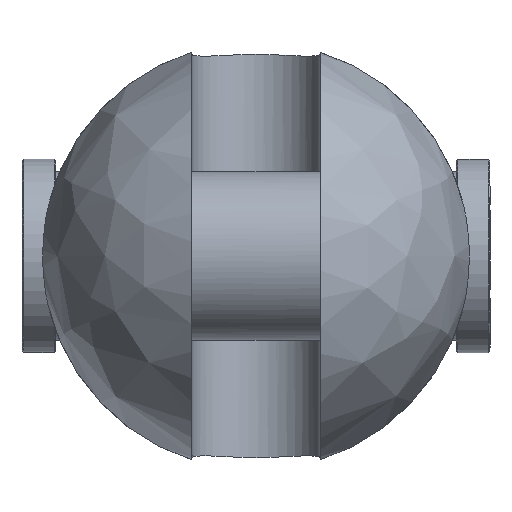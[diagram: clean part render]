
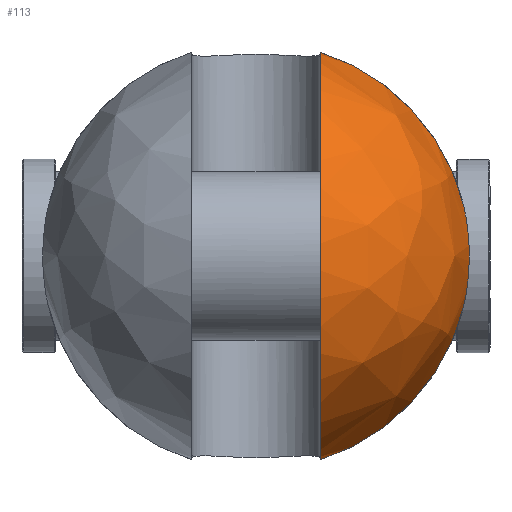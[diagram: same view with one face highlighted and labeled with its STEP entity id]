
A CAD part, left-side view. The second image highlights one B-rep face of the part: STEP entity #113.
In plain terms, the highlighted free-form (B-spline) face has degree [2, 2] with [9, 5] control points.
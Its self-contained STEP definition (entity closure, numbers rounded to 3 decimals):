
#113=ADVANCED_FACE('',(#200),#1522,.T.);
#200=FACE_OUTER_BOUND('',#299,.T.);
#299=EDGE_LOOP('',(#739,#740,#741,#742));
#739=ORIENTED_EDGE('',*,*,#995,.T.);
#740=ORIENTED_EDGE('',*,*,#992,.F.);
#741=ORIENTED_EDGE('',*,*,#1012,.T.);
#742=ORIENTED_EDGE('',*,*,#984,.F.);
#984=EDGE_CURVE('',#1413,#1414,#1245,.T.);
#992=EDGE_CURVE('',#1421,#1422,#1246,.T.);
#995=EDGE_CURVE('',#1413,#1422,#1248,.T.);
#1012=EDGE_CURVE('',#1421,#1414,#1120,.T.);
#1120=B_SPLINE_CURVE_WITH_KNOTS('',3,(#3619,#3620,#3621,#3622,#3623,#3624,
#3625,#3626,#3627,#3628,#3629,#3630,#3631,#3632),.UNSPECIFIED.,.F.,.F.,
(4,2,2,2,2,2,4),(0.,3.902,10.684,17.466,24.247,
31.029,34.931),.UNSPECIFIED.);
#1245=(
BOUNDED_CURVE()
B_SPLINE_CURVE(2,(#3469,#3470,#3471),.UNSPECIFIED.,.F.,.F.)
B_SPLINE_CURVE_WITH_KNOTS((3,3),(0.,71.178),.UNSPECIFIED.)
CURVE()
GEOMETRIC_REPRESENTATION_ITEM()
RATIONAL_B_SPLINE_CURVE((1.,0.872,1.))
REPRESENTATION_ITEM('')
);
#1246=(
BOUNDED_CURVE()
B_SPLINE_CURVE(2,(#3526,#3527,#3528),.UNSPECIFIED.,.F.,.F.)
B_SPLINE_CURVE_WITH_KNOTS((3,3),(0.,71.178),.UNSPECIFIED.)
CURVE()
GEOMETRIC_REPRESENTATION_ITEM()
RATIONAL_B_SPLINE_CURVE((1.,0.872,1.))
REPRESENTATION_ITEM('')
);
#1248=(
BOUNDED_CURVE()
B_SPLINE_CURVE(2,(#3534,#3535,#3536,#3537,#3538),.UNSPECIFIED.,.F.,.F.)
B_SPLINE_CURVE_WITH_KNOTS((3,2,3),(-208.135,-104.067,
0.),.UNSPECIFIED.)
CURVE()
GEOMETRIC_REPRESENTATION_ITEM()
RATIONAL_B_SPLINE_CURVE((1.,0.707,1.,0.707,1.))
REPRESENTATION_ITEM('')
);
#1413=VERTEX_POINT('',#3269);
#1414=VERTEX_POINT('',#3270);
#1421=VERTEX_POINT('',#3277);
#1422=VERTEX_POINT('',#3278);
#1522=(
BOUNDED_SURFACE()
B_SPLINE_SURFACE(2,2,((#3141,#3142,#3143,#3144,#3145),(#3146,#3147,#3148,
#3149,#3150),(#3151,#3152,#3153,#3154,#3155),(#3156,#3157,#3158,#3159,#3160),
(#3161,#3162,#3163,#3164,#3165),(#3166,#3167,#3168,#3169,#3170),(#3171,
#3172,#3173,#3174,#3175),(#3176,#3177,#3178,#3179,#3180),(#3181,#3182,#3183,
#3184,#3185)),.UNSPECIFIED.,.T.,.F.,.F.)
B_SPLINE_SURFACE_WITH_KNOTS((3,2,2,2,3),(3,2,3),(0.,109.17,218.341,
327.511,436.681),(0.,109.17,218.341),
 .UNSPECIFIED.)
GEOMETRIC_REPRESENTATION_ITEM()
RATIONAL_B_SPLINE_SURFACE(((1.,0.707,1.,0.707,1.),
(0.707,0.5,0.707,0.5,0.707),(1.,0.707,
1.,0.707,1.),(0.707,0.5,0.707,0.5,0.707),
(1.,0.707,1.,0.707,1.),(0.707,0.5,0.707,
0.5,0.707),(1.,0.707,1.,0.707,1.),(0.707,
0.5,0.707,0.5,0.707),(1.,0.707,1.,0.707,
1.)))
REPRESENTATION_ITEM('')
SURFACE()
);
#3141=CARTESIAN_POINT('',(-97.5,0.,0.));
#3142=CARTESIAN_POINT('',(-97.5,69.5,0.));
#3143=CARTESIAN_POINT('',(-28.,69.5,0.));
#3144=CARTESIAN_POINT('',(41.5,69.5,0.));
#3145=CARTESIAN_POINT('',(41.5,0.,0.));
#3146=CARTESIAN_POINT('',(-97.5,0.,0.));
#3147=CARTESIAN_POINT('',(-97.5,69.5,69.5));
#3148=CARTESIAN_POINT('',(-28.,69.5,69.5));
#3149=CARTESIAN_POINT('',(41.5,69.5,69.5));
#3150=CARTESIAN_POINT('',(41.5,0.,0.));
#3151=CARTESIAN_POINT('',(-97.5,0.,0.));
#3152=CARTESIAN_POINT('',(-97.5,0.,69.5));
#3153=CARTESIAN_POINT('',(-28.,0.,69.5));
#3154=CARTESIAN_POINT('',(41.5,0.,69.5));
#3155=CARTESIAN_POINT('',(41.5,0.,0.));
#3156=CARTESIAN_POINT('',(-97.5,0.,0.));
#3157=CARTESIAN_POINT('',(-97.5,-69.5,69.5));
#3158=CARTESIAN_POINT('',(-28.,-69.5,69.5));
#3159=CARTESIAN_POINT('',(41.5,-69.5,69.5));
#3160=CARTESIAN_POINT('',(41.5,0.,0.));
#3161=CARTESIAN_POINT('',(-97.5,0.,0.));
#3162=CARTESIAN_POINT('',(-97.5,-69.5,0.));
#3163=CARTESIAN_POINT('',(-28.,-69.5,0.));
#3164=CARTESIAN_POINT('',(41.5,-69.5,0.));
#3165=CARTESIAN_POINT('',(41.5,0.,0.));
#3166=CARTESIAN_POINT('',(-97.5,0.,0.));
#3167=CARTESIAN_POINT('',(-97.5,-69.5,-69.5));
#3168=CARTESIAN_POINT('',(-28.,-69.5,-69.5));
#3169=CARTESIAN_POINT('',(41.5,-69.5,-69.5));
#3170=CARTESIAN_POINT('',(41.5,0.,0.));
#3171=CARTESIAN_POINT('',(-97.5,0.,0.));
#3172=CARTESIAN_POINT('',(-97.5,0.,-69.5));
#3173=CARTESIAN_POINT('',(-28.,0.,-69.5));
#3174=CARTESIAN_POINT('',(41.5,0.,-69.5));
#3175=CARTESIAN_POINT('',(41.5,0.,0.));
#3176=CARTESIAN_POINT('',(-97.5,0.,0.));
#3177=CARTESIAN_POINT('',(-97.5,69.5,-69.5));
#3178=CARTESIAN_POINT('',(-28.,69.5,-69.5));
#3179=CARTESIAN_POINT('',(41.5,69.5,-69.5));
#3180=CARTESIAN_POINT('',(41.5,0.,0.));
#3181=CARTESIAN_POINT('',(-97.5,0.,0.));
#3182=CARTESIAN_POINT('',(-97.5,69.5,0.));
#3183=CARTESIAN_POINT('',(-28.,69.5,0.));
#3184=CARTESIAN_POINT('',(41.5,69.5,0.));
#3185=CARTESIAN_POINT('',(41.5,0.,0.));
#3269=CARTESIAN_POINT('',(-28.,-21.,66.251));
#3270=CARTESIAN_POINT('',(-28.,-67.513,16.5));
#3277=CARTESIAN_POINT('',(-28.,-67.513,-16.5));
#3278=CARTESIAN_POINT('',(-28.,-21.,-66.251));
#3469=CARTESIAN_POINT('',(-28.,-21.,66.251));
#3470=CARTESIAN_POINT('',(-28.,-58.239,54.448));
#3471=CARTESIAN_POINT('',(-28.,-67.513,16.5));
#3526=CARTESIAN_POINT('',(-28.,-67.513,-16.5));
#3527=CARTESIAN_POINT('',(-28.,-58.239,-54.448));
#3528=CARTESIAN_POINT('',(-28.,-21.,-66.251));
#3534=CARTESIAN_POINT('',(-28.,-21.,66.251));
#3535=CARTESIAN_POINT('',(-94.251,-21.,66.251));
#3536=CARTESIAN_POINT('',(-94.251,-21.,0.));
#3537=CARTESIAN_POINT('',(-94.251,-21.,-66.251));
#3538=CARTESIAN_POINT('',(-28.,-21.,-66.251));
#3619=CARTESIAN_POINT('',(-28.,-67.513,-16.5));
#3620=CARTESIAN_POINT('',(-28.653,-67.784,-15.393));
#3621=CARTESIAN_POINT('',(-29.244,-68.027,-14.238));
#3622=CARTESIAN_POINT('',(-30.671,-68.613,-10.982));
#3623=CARTESIAN_POINT('',(-31.365,-68.895,-8.807));
#3624=CARTESIAN_POINT('',(-32.279,-69.265,-4.4));
#3625=CARTESIAN_POINT('',(-32.5,-69.354,-2.169));
#3626=CARTESIAN_POINT('',(-32.5,-69.354,2.169));
#3627=CARTESIAN_POINT('',(-32.279,-69.265,4.4));
#3628=CARTESIAN_POINT('',(-31.365,-68.895,8.807));
#3629=CARTESIAN_POINT('',(-30.671,-68.613,10.982));
#3630=CARTESIAN_POINT('',(-29.244,-68.027,14.238));
#3631=CARTESIAN_POINT('',(-28.653,-67.784,15.393));
#3632=CARTESIAN_POINT('',(-28.,-67.513,16.5));
